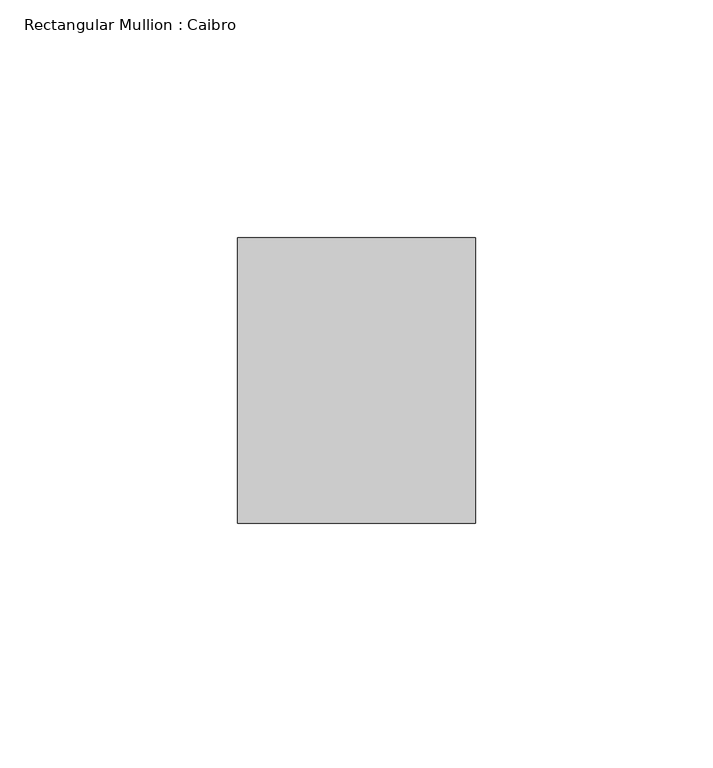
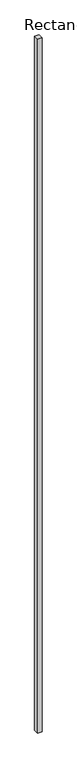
"""IFC4 building model written with IfcOpenShell, lengths in millimetres: member geometry, Rectangular Mullion : Caibro."""

from ifc_helpers import new_model, si_unit, frame, origin, place, context, project, spatial, polyline, outline, extrude, source, transform, mapped, element, save


def rectangular_mullion_caibro_60a6547b(model_context):
    return source(origin(), model_context, "Body", "SweptSolid", [
        extrude(outline(polyline([(0.0, -60.0), (-50.0, -60.0), (-50.0, 0.0), (0.0, 0.0), (0.0, -60.0)])), frame((0.0, 0.0, -8494.3429448), z_axis=(0.0, 0.0, 1.0), x_axis=(1.0, 0.0, 0.0)), (0.0, 0.0, 1.0), 8494.3429448),
    ])


if __name__ == "__main__":
    model = new_model("IFC4")
    model_context = context("Model", 3, world=origin())
    ifc_project = project(units=[si_unit("LENGTHUNIT", "METRE", prefix="MILLI")], contexts=[model_context])
    site = spatial("IfcSite", under=ifc_project)
    building = spatial("IfcBuilding", under=site)
    placement = place(None, origin())
    rectangular_mullion_caibro_shape = rectangular_mullion_caibro_60a6547b(model_context)
    element("IfcMember", 1, ObjectType="Rectangular Mullion : Caibro", at=placement, inside=building, context=model_context, shape_type="MappedRepresentation", body=[
        mapped(rectangular_mullion_caibro_shape, transform((0.0, 0.0, 0.0), x_axis=(1.0, 0.0, 0.0), y_axis=(0.0, 1.0, 0.0), z_axis=(0.0, 0.0, 1.0))),
    ])
    save(model, "model.ifc")
